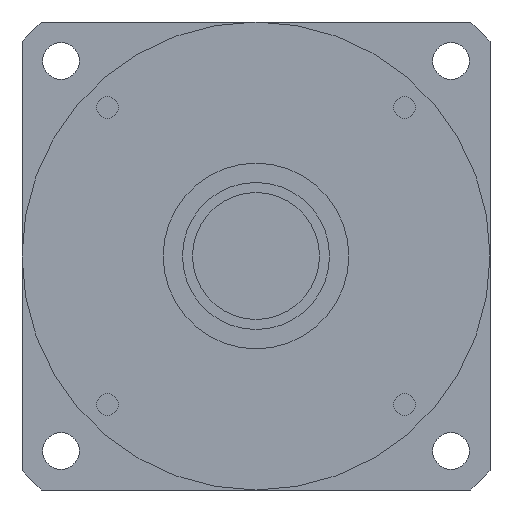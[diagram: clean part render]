
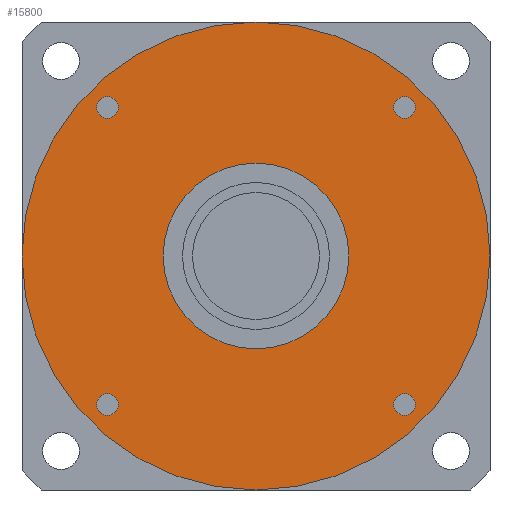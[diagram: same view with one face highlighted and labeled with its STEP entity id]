
A CAD part, left-side view. The second image highlights one B-rep face of the part: STEP entity #15800.
In plain terms, the highlighted planar face has unit normal (-1, 0, 0) as drawn and (0, 0, -1) by its records, which use the part's own axes.
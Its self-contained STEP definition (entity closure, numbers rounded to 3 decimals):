
#14680=CARTESIAN_POINT('',(-70.,0.,-84.701));
#14690=VERTEX_POINT('',#14680);
#14720=CARTESIAN_POINT('',(0.,0.,
-84.701));
#14730=DIRECTION('',(0.,0.,-1.));
#14740=DIRECTION('',(0.,-1.,0.));
#14750=AXIS2_PLACEMENT_3D('',#14720,#14730,#14740);
#14760=CIRCLE('',#14750,70.);
#14770=CARTESIAN_POINT('',(70.,0.,-84.701));
#14780=VERTEX_POINT('',#14770);
#14790=EDGE_CURVE('',#14690,#14780,#14760,.T.);
#14910=CARTESIAN_POINT('',(0.,0.,
-84.701));
#14920=DIRECTION('',(0.,0.,-1.));
#14930=DIRECTION('',(1.,0.,0.));
#14940=AXIS2_PLACEMENT_3D('',#14910,#14920,#14930);
#14950=PLANE('',#14940);
#14960=CARTESIAN_POINT('',(44.449,44.449,-84.701));
#14970=DIRECTION('',(0.,0.,-1.));
#14980=DIRECTION('',(0.,1.,0.));
#14990=AXIS2_PLACEMENT_3D('',#14960,#14970,#14980);
#15000=CIRCLE('',#14990,3.25);
#15010=CARTESIAN_POINT('',(44.449,47.699,-84.701));
#15020=VERTEX_POINT('',#15010);
#15030=CARTESIAN_POINT('',(44.449,41.199,-84.701));
#15040=VERTEX_POINT('',#15030);
#15050=EDGE_CURVE('',#15020,#15040,#15000,.T.);
#15060=ORIENTED_EDGE('',*,*,#15050,.F.);
#15070=EDGE_CURVE('',#15040,#15020,#15000,.T.);
#15080=ORIENTED_EDGE('',*,*,#15070,.F.);
#15090=EDGE_LOOP('',(#15080,#15060));
#15100=FACE_BOUND('',#15090,.T.);
#15110=CARTESIAN_POINT('',(-44.449,44.449,-84.701));
#15120=DIRECTION('',(0.,0.,-1.));
#15130=DIRECTION('',(-1.,0.,0.));
#15140=AXIS2_PLACEMENT_3D('',#15110,#15120,#15130);
#15150=CIRCLE('',#15140,3.25);
#15160=CARTESIAN_POINT('',(-47.699,44.449,-84.701));
#15170=VERTEX_POINT('',#15160);
#15180=CARTESIAN_POINT('',(-41.199,44.449,-84.701));
#15190=VERTEX_POINT('',#15180);
#15200=EDGE_CURVE('',#15170,#15190,#15150,.T.);
#15210=ORIENTED_EDGE('',*,*,#15200,.F.);
#15220=EDGE_CURVE('',#15190,#15170,#15150,.T.);
#15230=ORIENTED_EDGE('',*,*,#15220,.F.);
#15240=EDGE_LOOP('',(#15230,#15210));
#15250=FACE_BOUND('',#15240,.T.);
#15260=CARTESIAN_POINT('',(-44.449,-44.449,-84.701))
;
#15270=DIRECTION('',(0.,0.,-1.));
#15280=DIRECTION('',(0.,-1.,0.));
#15290=AXIS2_PLACEMENT_3D('',#15260,#15270,#15280);
#15300=CIRCLE('',#15290,3.25);
#15310=CARTESIAN_POINT('',(-44.449,-47.699,-84.701))
;
#15320=VERTEX_POINT('',#15310);
#15330=CARTESIAN_POINT('',(-44.449,-41.199,-84.701))
;
#15340=VERTEX_POINT('',#15330);
#15350=EDGE_CURVE('',#15320,#15340,#15300,.T.);
#15360=ORIENTED_EDGE('',*,*,#15350,.F.);
#15370=EDGE_CURVE('',#15340,#15320,#15300,.T.);
#15380=ORIENTED_EDGE('',*,*,#15370,.F.);
#15390=EDGE_LOOP('',(#15380,#15360));
#15400=FACE_BOUND('',#15390,.T.);
#15410=CARTESIAN_POINT('',(0.,0.,
-84.701));
#15420=DIRECTION('',(0.,0.,-1.));
#15430=DIRECTION('',(0.,1.,0.));
#15440=AXIS2_PLACEMENT_3D('',#15410,#15420,#15430);
#15450=CIRCLE('',#15440,27.76);
#15460=CARTESIAN_POINT('',(0.,27.76,-84.701));
#15470=VERTEX_POINT('',#15460);
#15480=CARTESIAN_POINT('',(0.,-27.76,-84.701));
#15490=VERTEX_POINT('',#15480);
#15500=EDGE_CURVE('',#15470,#15490,#15450,.T.);
#15510=ORIENTED_EDGE('',*,*,#15500,.F.);
#15520=EDGE_CURVE('',#15490,#15470,#15450,.T.);
#15530=ORIENTED_EDGE('',*,*,#15520,.F.);
#15540=EDGE_LOOP('',(#15530,#15510));
#15550=FACE_BOUND('',#15540,.T.);
#15560=CARTESIAN_POINT('',(44.449,-44.449,-84.701));
#15570=DIRECTION('',(0.,0.,-1.));
#15580=DIRECTION('',(1.,0.,0.));
#15590=AXIS2_PLACEMENT_3D('',#15560,#15570,#15580);
#15600=CIRCLE('',#15590,3.25);
#15610=CARTESIAN_POINT('',(47.699,-44.449,-84.701));
#15620=VERTEX_POINT('',#15610);
#15630=CARTESIAN_POINT('',(41.199,-44.449,-84.701));
#15640=VERTEX_POINT('',#15630);
#15650=EDGE_CURVE('',#15620,#15640,#15600,.T.);
#15660=ORIENTED_EDGE('',*,*,#15650,.F.);
#15670=EDGE_CURVE('',#15640,#15620,#15600,.T.);
#15680=ORIENTED_EDGE('',*,*,#15670,.F.);
#15690=EDGE_LOOP('',(#15680,#15660));
#15700=FACE_BOUND('',#15690,.T.);
#15710=ORIENTED_EDGE('',*,*,#14790,.T.);
#15720=CARTESIAN_POINT('',(0.,-70.,-84.701));
#15730=VERTEX_POINT('',#15720);
#15740=EDGE_CURVE('',#15730,#14690,#14760,.T.);
#15750=ORIENTED_EDGE('',*,*,#15740,.T.);
#15760=EDGE_CURVE('',#14780,#15730,#14760,.T.);
#15770=ORIENTED_EDGE('',*,*,#15760,.T.);
#15780=EDGE_LOOP('',(#15770,#15750,#15710));
#15790=FACE_OUTER_BOUND('',#15780,.T.);
#15800=ADVANCED_FACE('',(#15100,#15250,#15400,#15550,#15700,#15790),
#14950,.T.);
